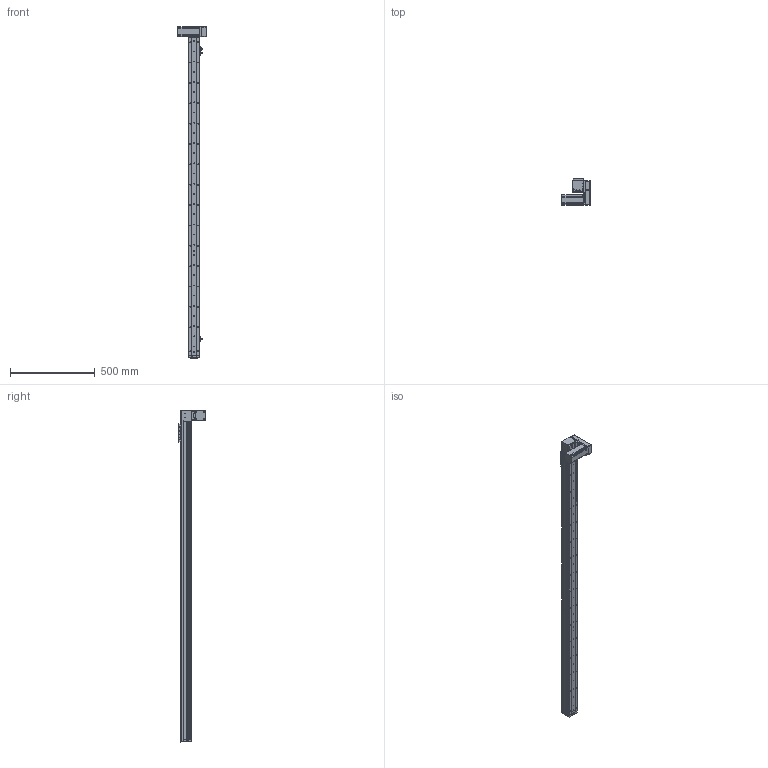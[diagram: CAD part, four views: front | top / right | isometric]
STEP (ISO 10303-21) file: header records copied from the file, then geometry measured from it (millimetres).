
FILE_DESCRIPTION (( 'STEP AP214' ), '1' );
FILE_NAME ('KSD68BS-S1700-MLD-CR.STEP', '2019-08-27T06:08:30', ( '微软用户' ), ( '微软中国' ), 'SwSTEP 2.0', 'SolidWorks 2014', '' );
FILE_SCHEMA (( 'AUTOMOTIVE_DESIGN' ));
Length unit declared in the file: millimetre
Products named in the file (14): 68宽单导轨全封闭丝杆传动安装板1防护罩; KSD68BS 1700行程侧板全封闭; 68宽单导轨全封闭同步带端板; 68单导轨全封闭同步带电机座左; 68单导轨全封闭同步带安装板; 悵誘欶奻狟殏; 68宽马达安装板连板上折同步带; 感应片68宽全封闭; 68遵裔啣揤啣1; U倰嫖萇EEㄜSX672; 台达ECMA－C20604AS伺服电机（400W); KSD68BS 1700行程底板全封闭; KSD68BS 1700行程盖板全封闭; KSD68BS-S1700-MLD-CR
Assembly tree (17 placements, depth 2):
  KSD68BS-S1700-MLD-CR
    KSD68BS 1700行程底板全封闭
    台达ECMA－C20604AS伺服电机（400W)
    U倰嫖萇EEㄜSX672  x3
    感应片68宽全封闭
    68宽马达安装板连板上折同步带
    悵誘欶奻狟殏
    68单导轨全封闭同步带安装板
    68单导轨全封闭同步带电机座左
    68宽单导轨全封闭同步带端板
    KSD68BS 1700行程侧板全封闭  x2
    68宽单导轨全封闭丝杆传动安装板1防护罩
    68遵裔啣揤啣1  x2
    KSD68BS 1700行程盖板全封闭
Bounding box: 167.2 x 155.5 x 1958.1 mm (x, y, z)
Volume: 3479533.9 mm3; surface area: 1416846.1 mm2
Topology: 18 solids, 18 shells, 1621 faces, 4675 edges, 2978 vertices
Faces by surface type: cylinder 800, plane 629, cone 192
Entity records: 53119 total; most frequent: CARTESIAN_POINT 9281, DIRECTION 7894, ORIENTED_EDGE 7554, EDGE_CURVE 3777, AXIS2_PLACEMENT_3D 2883, VERTEX_POINT 2476, VECTOR 2128, LINE 2128
